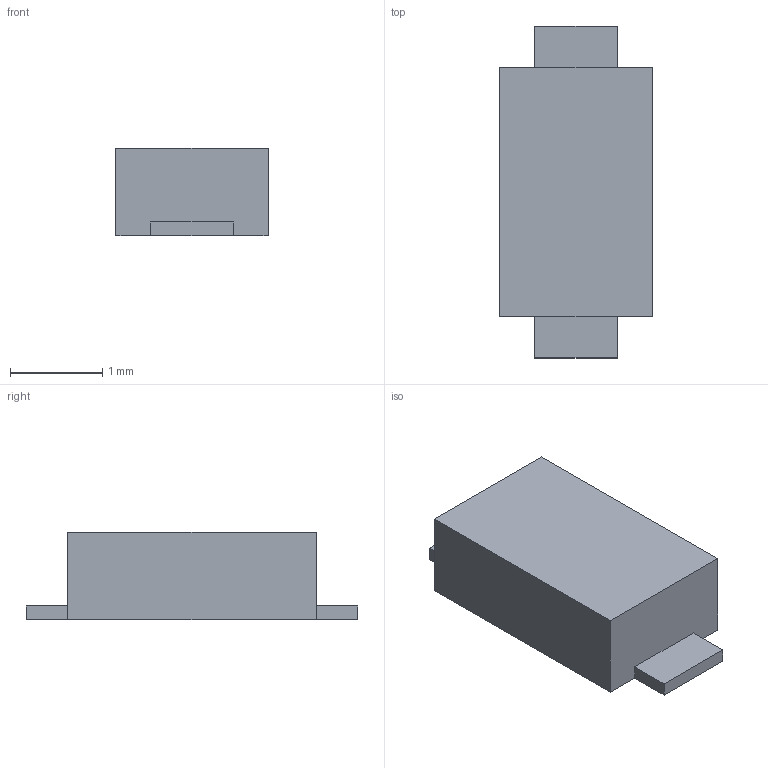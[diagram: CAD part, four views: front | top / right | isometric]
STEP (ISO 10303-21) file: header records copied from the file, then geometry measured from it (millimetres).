
FILE_DESCRIPTION(/* description */ ('STEP AP242 Edition 2','CAx-IF Rec.Pracs.---Representation and Presentation of Product Manufacturing Information (PMI)---4.0---2014-10-13','CAx-IF Rec.Pracs.---3D Tessellated Geometry---0.4---2014-09-14','2;1','CAx-IF Rec.Pracs.---User Defined Attributes---1.5---2016-08-15'),/* implementation_level */ '2;1');
FILE_NAME(/* name */ 'HIRO_Assembly - D1, Diode, Schottky, Raspberry Pi Pico-R3',/* time_stamp */ '2026-11-04T05:23:19Z',/* author */ (''),/* organization */ (''),/* preprocessor_version */ 'ST-DEVELOPER v20',/* originating_system */ 'ONSHAPE BY PTC INC, 1.223',/* authorisation */ ' ');
FILE_SCHEMA (('AP242_MANAGED_MODEL_BASED_3D_ENGINEERING_MIM_LF { 1 0 10303 442 3 1 4 }'));
Length unit declared in the file: metre
Products named in the file (1): D1, Diode, Schottky, Raspberry Pi Pico-R3
Bounding box: 1.65 x 3.6 x 0.95 mm (x, y, z)
Volume: 4.4 mm3; surface area: 19.1 mm2
Topology: 1 solids, 1 shells, 14 faces, 36 edges, 24 vertices
Faces by surface type: plane 14
Entity records: 542 total; most frequent: CARTESIAN_POINT 75, ORIENTED_EDGE 72, DIRECTION 66, EDGE_CURVE 36, LINE 36, VECTOR 36, VERTEX_POINT 24, PRESENTATION_STYLE_ASSIGNMENT 15
